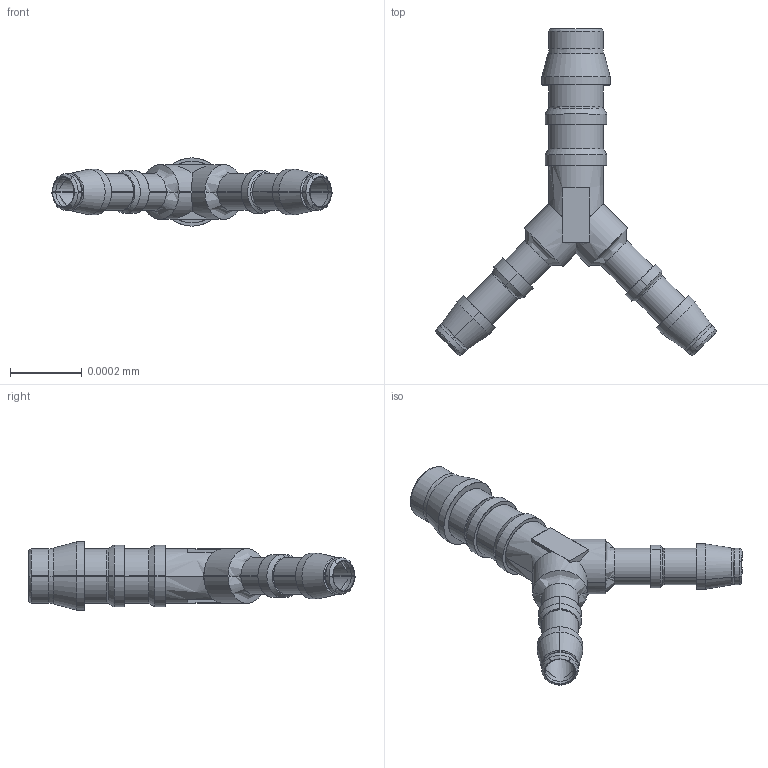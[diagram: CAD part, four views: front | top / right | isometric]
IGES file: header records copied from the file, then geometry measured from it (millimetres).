
Start section: SolidWorks IGES file using analytic representation for surfaces
Global section: file name: K:\Disegni Esecutivi\SERIE 14000\DOK\IGES\143100095GR00.IGS; native system: SolidWorks 2020; preprocessor: SolidWorks 2020; author: cad06; date: 240507.164640; units: mil
Bounding box: 0 x 0 x 0 mm (x, y, z)
Surface area: 0 mm2 (no closed solid volume)
Topology: 0 solids, 0 shells, 137 faces, 1336 edges, 1336 vertices
Faces by surface type: revolution 74, bspline 63
